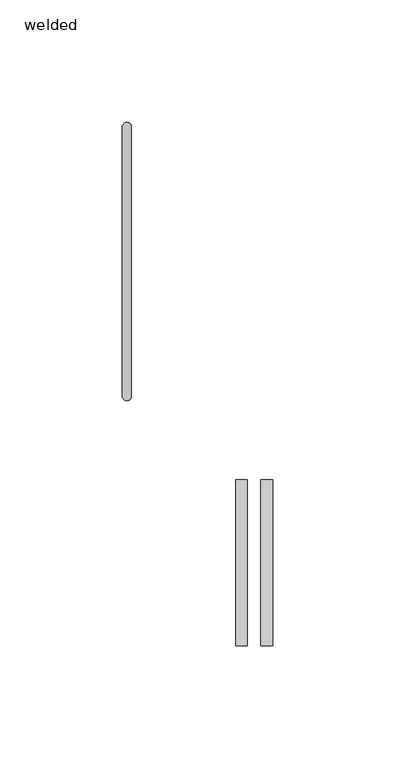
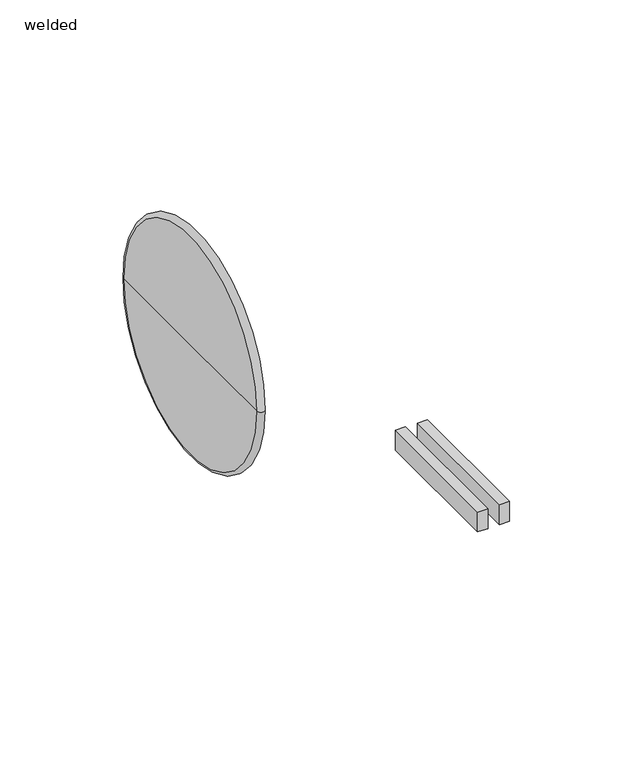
"""IFC4 building model written with IfcOpenShell, lengths in millimetres: pipe fitting geometry, NLRS_52_PIF_UN_HDPE weld_Akatherm : welded."""

from ifc_helpers import new_model, si_unit, point, frame, origin, place, context, project, spatial, polyline, circle_curve, ellipse_curve, trimmed, outline, extrude, source, transform, mapped, element, save
from ifc_brep_helpers import plane_surface, revolved_surface, advanced_brep


def welded_ac007b25(model_context):
    return source(origin(), model_context, "Body", "SolidModel", [
        extrude(outline(polyline([(42.5311847, -156.9421922), (42.5311847, -89.143993), (47.3087456, -89.143993), (47.3087456, -156.9421922), (42.5311847, -156.9421922)])), frame((0.0, 0.0, -15.0), z_axis=(0.0, 0.0, 1.0), x_axis=(1.0, 0.0, 0.0)), (0.0, 0.0, 1.0), 10.0),
        extrude(outline(polyline([(52.9005519, -156.9421922), (52.9005519, -89.143993), (57.6781127, -89.143993), (57.6781127, -156.9421922), (52.9005519, -156.9421922)])), frame((0.0, 0.0, -15.0), z_axis=(0.0, 0.0, 1.0), x_axis=(1.0, 0.0, 0.0)), (0.0, 0.0, 1.0), 10.0),
        advanced_brep(
        [(-3.7, -55.0, 0.0), (-3.7, 55.0, 0.0), (0.0, 55.0, 0.0), (0.0, -55.0, 0.0), (-3.7, 0.0, 0.0), (0.0, 0.0, 0.0)],
        [
            (0, 1, circle_curve(frame((-3.7, 0.0, 0.0), z_axis=(1.0, 0.0, 0.0), x_axis=(0.0, 1.0, 0.0)), 55.0)),
            (1, 2, circle_curve(frame((-1.85, 55.0, 0.0), z_axis=(0.0, 0.0, -1.0), x_axis=(1.0, 0.0, 0.0)), 1.85)),
            (2, 3, circle_curve(frame((0.0, 0.0, 0.0), z_axis=(-1.0, 0.0, 0.0), x_axis=(0.0, 1.0, 0.0)), 55.0)),
            (3, 0, circle_curve(frame((-1.85, -55.0, 0.0), z_axis=(0.0, 0.0, -1.0), x_axis=(1.0, 0.0, 0.0)), 1.85)),
            (1, 0, circle_curve(frame((-3.7, 0.0, 0.0), z_axis=(1.0, 0.0, 0.0), x_axis=(0.0, 1.0, 0.0)), 55.0)),
            (3, 2, circle_curve(frame((0.0, 0.0, 0.0), z_axis=(-1.0, 0.0, 0.0), x_axis=(0.0, 1.0, 0.0)), 55.0)),
            (4, 1),
            (0, 4),
            (2, 5),
            (5, 3),
        ],
        [
            revolved_surface(trimmed(ellipse_curve(frame((-1.85, 55.0, 0.0), z_axis=(0.0, 0.0, 1.0), x_axis=(1.0, 0.0, 0.0)), 1.85, 1.85), [point((0.0, 55.0, 0.0))], [point((-3.7, 55.0, 0.0))], True, "CARTESIAN"), (-41.85, 0.0, 0.0), (-1.0, 0.0, 0.0)),
            plane_surface(frame((-3.7, 0.0, 0.0), z_axis=(-1.0, 0.0, 0.0), x_axis=(0.0, 1.0, 0.0))),
            plane_surface(frame((0.0, 0.0, 0.0), z_axis=(1.0, 0.0, 0.0), x_axis=(0.0, 1.0, 0.0))),
        ],
        [
            (0, [[1, 2, 3, 4]]),
            (0, [[5, -4, 6, -2]]),
            (1, [[7, -1, 8]]),
            (1, [[-8, -5, -7]]),
            (2, [[-3, 9, 10]]),
            (2, [[-6, -10, -9]]),
        ],
    ),
    ])


if __name__ == "__main__":
    model = new_model("IFC4")
    model_context = context("Model", 3, world=origin())
    ifc_project = project(units=[si_unit("LENGTHUNIT", "METRE", prefix="MILLI")], contexts=[model_context])
    site = spatial("IfcSite", under=ifc_project)
    building = spatial("IfcBuilding", under=site)
    placement = place(None, origin())
    welded_shape = welded_ac007b25(model_context)
    element("IfcPipeFitting", 1, ObjectType="NLRS_52_PIF_UN_HDPE weld_Akatherm : welded", at=placement, inside=building, context=model_context, shape_type="MappedRepresentation", body=[
        mapped(welded_shape, transform((0.0, 0.0, 0.0), x_axis=(1.0, 0.0, 0.0), y_axis=(0.0, 1.0, 0.0), z_axis=(0.0, 0.0, 1.0))),
    ])
    save(model, "model.ifc")
